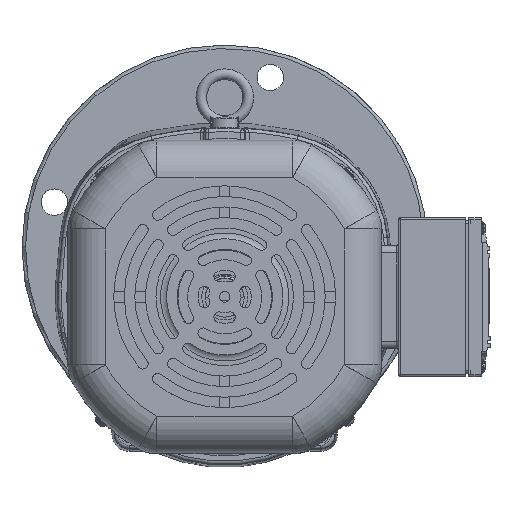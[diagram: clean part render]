
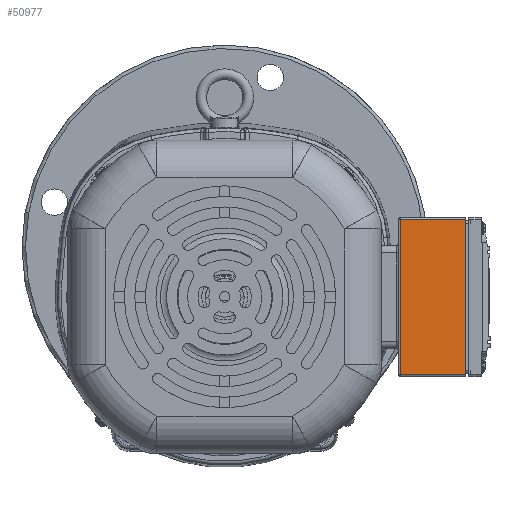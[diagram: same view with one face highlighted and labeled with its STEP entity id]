
A CAD part, top view. The second image highlights one B-rep face of the part: STEP entity #50977.
In plain terms, the highlighted planar face has unit normal (0, 0, 1).
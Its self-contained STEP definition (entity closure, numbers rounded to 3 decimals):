
#863=PLANE('',#54701);
#2681=LINE('',#77569,#5227);
#2682=LINE('',#77571,#5228);
#2683=LINE('',#77573,#5229);
#2684=LINE('',#77574,#5230);
#5227=VECTOR('',#62133,10.);
#5228=VECTOR('',#62134,10.);
#5229=VECTOR('',#62135,10.);
#5230=VECTOR('',#62136,10.);
#8306=FACE_OUTER_BOUND('',#11474,.T.);
#11474=EDGE_LOOP('',(#34372,#34373,#34374,#34375));
#20228=VERTEX_POINT('',#77567);
#20229=VERTEX_POINT('',#77568);
#20230=VERTEX_POINT('',#77570);
#20231=VERTEX_POINT('',#77572);
#25424=EDGE_CURVE('',#20228,#20229,#2681,.T.);
#25425=EDGE_CURVE('',#20230,#20228,#2682,.T.);
#25426=EDGE_CURVE('',#20230,#20231,#2683,.T.);
#25427=EDGE_CURVE('',#20229,#20231,#2684,.T.);
#34372=ORIENTED_EDGE('',*,*,#25424,.F.);
#34373=ORIENTED_EDGE('',*,*,#25425,.F.);
#34374=ORIENTED_EDGE('',*,*,#25426,.T.);
#34375=ORIENTED_EDGE('',*,*,#25427,.F.);
#50977=ADVANCED_FACE('',(#8306),#863,.T.);
#54701=AXIS2_PLACEMENT_3D('',#77566,#62131,#62132);
#62131=DIRECTION('center_axis',(0.,0.,
1.));
#62132=DIRECTION('ref_axis',(1.,0.,0.));
#62133=DIRECTION('',(0.,1.,0.));
#62134=DIRECTION('',(-1.,0.,0.));
#62135=DIRECTION('',(0.,1.,0.));
#62136=DIRECTION('',(1.,0.,0.));
#77566=CARTESIAN_POINT('Origin',(130.366,-63.989,317.5));
#77567=CARTESIAN_POINT('',(131.366,-62.989,317.5));
#77568=CARTESIAN_POINT('',(131.366,25.011,317.5));
#77569=CARTESIAN_POINT('',(131.366,-41.489,317.5));
#77570=CARTESIAN_POINT('',(168.366,-62.989,317.5));
#77571=CARTESIAN_POINT('',(130.366,-62.989,317.5));
#77572=CARTESIAN_POINT('',(168.366,25.011,317.5));
#77573=CARTESIAN_POINT('',(168.366,26.011,317.5));
#77574=CARTESIAN_POINT('',(130.366,25.011,317.5));
